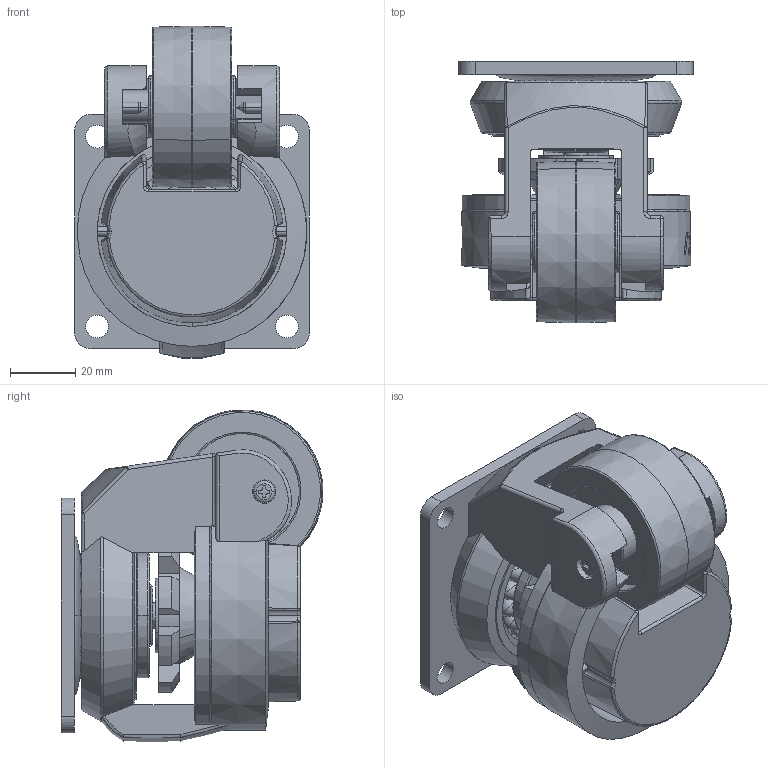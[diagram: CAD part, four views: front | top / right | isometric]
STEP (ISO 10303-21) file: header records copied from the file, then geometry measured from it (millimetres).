
FILE_DESCRIPTION (( 'STEP AP214' ), '1' );
FILE_NAME ('RSI-60-GD.STEP', '2023-02-10T05:09:17', ( '' ), ( '' ), 'SwSTEP 2.0', 'SolidWorks 2020', '' );
FILE_SCHEMA (( 'AUTOMOTIVE_DESIGN' ));
Length unit declared in the file: millimetre
Products named in the file (11): RSI-60-GD-1; RSI-60-GD; RSI-60-GD-9; RSI-60-GD-7; RSI-60-GD-10; RSI-60-GD-3; RSI-60-GD-8; RSI-60-GD-6; RSI-60-GD-5; RSI-60-GD-4; RSI-60-GD-2
Assembly tree (46 placements, depth 2):
  RSI-60-GD
    RSI-60-GD-1
    RSI-60-GD-2
    RSI-60-GD-3
    RSI-60-GD-4
    RSI-60-GD-5
    RSI-60-GD-6
    RSI-60-GD-7
    RSI-60-GD-8  x2
    RSI-60-GD-9
    RSI-60-GD-10  x36
Bounding box: 71.7 x 80 x 101.44 mm (x, y, z)
Volume: 222265.1 mm3; surface area: 89070.6 mm2
Topology: 53 solids, 53 shells, 748 faces, 1922 edges, 1235 vertices
Faces by surface type: cylinder 212, plane 188, bspline 113, sphere 89, cone 83, torus 63
Entity records: 32356 total; most frequent: CARTESIAN_POINT 14980, ORIENTED_EDGE 3158, DIRECTION 2921, EDGE_CURVE 1579, AXIS2_PLACEMENT_3D 1184, VERTEX_POINT 1008, EDGE_LOOP 711, ADVANCED_FACE 647
